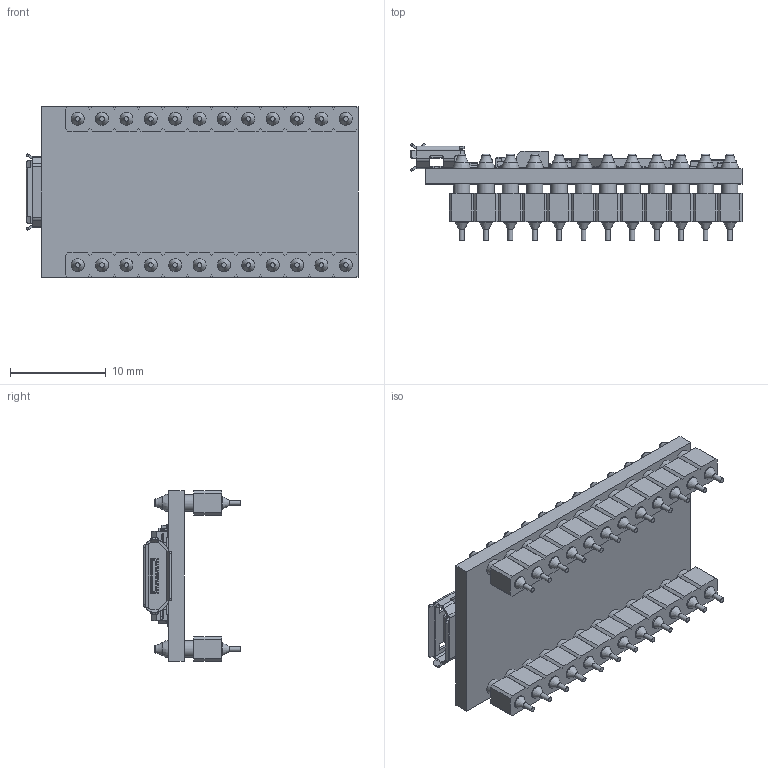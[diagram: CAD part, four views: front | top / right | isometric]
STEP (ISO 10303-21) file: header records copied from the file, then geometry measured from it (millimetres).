
FILE_DESCRIPTION(/* description */ (''),/* implementation_level */ '2;1');
FILE_NAME(/* name */ 'ARDUINO PRO MICRO_mod v1.step',/* time_stamp */ '2024-03-13T11:15:35+01:00',/* author */ (''),/* organization */ (''),/* preprocessor_version */ 'ST-DEVELOPER v20',/* originating_system */ 'Autodesk Translation Framework v12.20.1.177',/* authorisation */ '');
FILE_SCHEMA (('AUTOMOTIVE_DESIGN { 1 0 10303 214 3 1 1 }'));
Products named in the file (21): ARDUINO PRO MICRO_mod; micro board; micro usb; micro usb shell; micro usb internal; micro usb contact; atmega32U4; MICRO_cap106C; MICRO_stackable header 12 (1); MICRO_stackable header 12; MICRO_stackable header pin; micro_crystal 5x3; micro_MIC5219; MICRO_603 resistor 103; MICRO_603 resistor 102; MICRO_603 resistor 22; MICRO_PTC-1206; MICRO_603 resistor 331; MICRO_603 cap on pad; SOD 323; MICRO_led
Assembly tree (47 placements, depth 3):
  ARDUINO PRO MICRO_mod
    micro board
    MICRO_stackable header 12 (1)  x2
      MICRO_stackable header 12
      MICRO_stackable header pin
    micro usb
      micro usb shell
      micro usb internal
      micro usb contact  x5
    atmega32U4
    MICRO_cap106C  x2
    micro_crystal 5x3
    micro_MIC5219
    MICRO_603 resistor 103
    MICRO_603 resistor 102
    MICRO_603 resistor 22  x2
    MICRO_PTC-1206
    MICRO_603 resistor 331  x2
    MICRO_603 cap on pad  x7
    SOD 323
    MICRO_led  x3
Bounding box: 34.59 x 10.15 x 17.78 mm (x, y, z)
Volume: 1653 mm3; surface area: 3973.2 mm2
Topology: 78 solids, 78 shells, 4121 faces, 10733 edges, 6912 vertices
Faces by surface type: plane 2616, cylinder 748, bspline 585, torus 116, sphere 30, cone 26
Full cylindrical faces by diameter (mm): 0.2 x1, 0.3 x3, 0.45 x2, 0.5 x49, 0.9 x24, 1.35 x48, 1.7 x24
Entity records: 99459 total; most frequent: CARTESIAN_POINT 27627, ORIENTED_EDGE 15166, DIRECTION 12995, EDGE_CURVE 7583, LINE 5657, VECTOR 5657, VERTEX_POINT 4936, AXIS2_PLACEMENT_3D 3669
